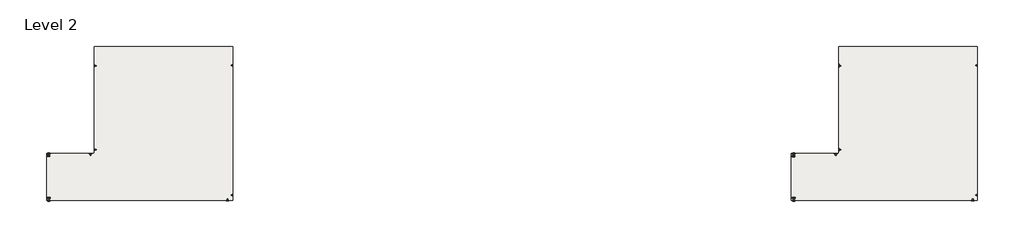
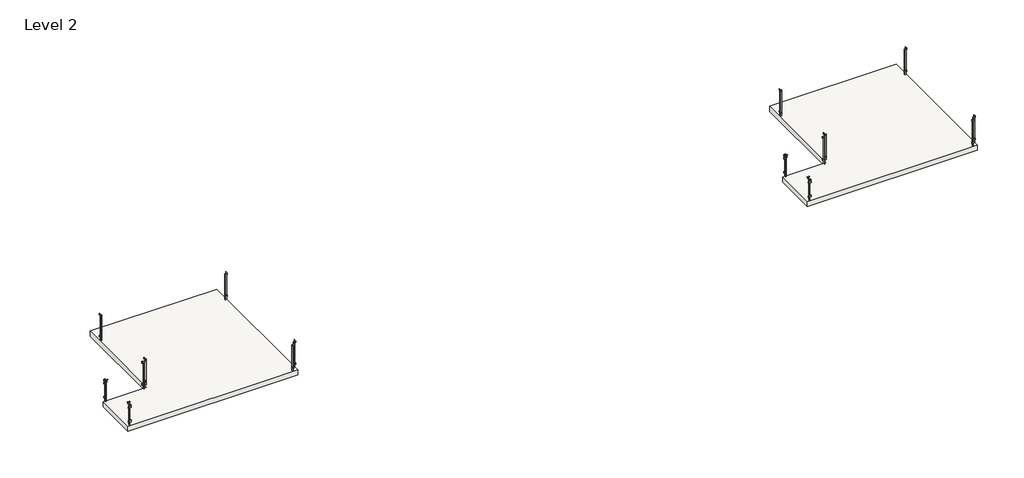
# One storey: 16 proxies, 2 slabs.
"""IFC4 building model written with IfcOpenShell, lengths in millimetres."""

from ifc_helpers import new_model, si_unit, frame, origin, place, context, project, spatial, polyline, outline, extrude, transform, mapped, element, save
from components import building_element_proxy_a79f7dfa, building_element_proxy_dd0e699c, building_element_proxy_a02ecdc2

model = new_model("IFC4")

# Units and contexts
model_context = context("Model", 3, world=origin())
ifc_project = project(units=[si_unit("LENGTHUNIT", "METRE", prefix="MILLI")], contexts=[model_context])

# Site, building, storey
site = spatial("IfcSite", under=ifc_project)
building = spatial("IfcBuilding", under=site)
storey = spatial("IfcBuildingStorey", under=building, Name="Level 2", Elevation=3048.0)

# Proxies
placement = place(None, origin())
building_element_proxy_shape = building_element_proxy_a79f7dfa(model_context)
element("IfcBuildingElementProxy", 1, Name="Baluster-End-Post-VIVA-STRUC-Top Mount : WELDED STEEL CHANNEL_TOP MOUNT STRUC_STRAIGHT", ObjectType="Baluster-End-Post-VIVA-STRUC-Top Mount : WELDED STEEL CHANNEL_TOP MOUNT STRUC_STRAIGHT", at=placement, inside=storey, context=model_context, shape_type="MappedRepresentation", body=[
    mapped(building_element_proxy_shape, transform((-28014.6091099, -31422.1015554, 3047.492), x_axis=(0.0, 1.0, 0.0), y_axis=(-1.0, 0.0, 0.0), z_axis=(0.0, 0.0, 1.0))),
])
element("IfcBuildingElementProxy", 2, Name="Baluster-End-Post-VIVA-STRUC-Top Mount : WELDED STEEL CHANNEL_TOP MOUNT STRUC_STRAIGHT", ObjectType="Baluster-End-Post-VIVA-STRUC-Top Mount : WELDED STEEL CHANNEL_TOP MOUNT STRUC_STRAIGHT", at=placement, inside=storey, context=model_context, shape_type="MappedRepresentation", body=[
    mapped(building_element_proxy_shape, transform((-7288.2091099, -31422.1015554, 3047.492), x_axis=(0.0, 1.0, 0.0), y_axis=(-1.0, 0.0, 0.0), z_axis=(0.0, 0.0, 1.0))),
])
building_element_proxy_2_shape = building_element_proxy_dd0e699c(model_context)
element("IfcBuildingElementProxy", 3, Name="Baluster-End-Post-VIVA-STRUC-Top Mount : WELDED STEEL CHANNEL_TOP MOUNT STRUC_STRAIGHT", ObjectType="Baluster-End-Post-VIVA-STRUC-Top Mount : WELDED STEEL CHANNEL_TOP MOUNT STRUC_STRAIGHT", at=placement, inside=storey, context=model_context, shape_type="MappedRepresentation", body=[
    mapped(building_element_proxy_2_shape, transform((-27946.4063244, -31356.1315768, 3047.492), x_axis=(1.0, 0.0, 0.0), y_axis=(0.0, 1.0, 0.0), z_axis=(0.0, 0.0, 1.0))),
])
element("IfcBuildingElementProxy", 4, Name="Baluster-End-Post-VIVA-STRUC-Top Mount : WELDED STEEL CHANNEL_TOP MOUNT STRUC_STRAIGHT", ObjectType="Baluster-End-Post-VIVA-STRUC-Top Mount : WELDED STEEL CHANNEL_TOP MOUNT STRUC_STRAIGHT", at=placement, inside=storey, context=model_context, shape_type="MappedRepresentation", body=[
    mapped(building_element_proxy_2_shape, transform((-31627.8919393, -30159.4218394, 3047.492), x_axis=(0.0, -1.0, 0.0), y_axis=(1.0, 0.0, 0.0), z_axis=(0.0, 0.0, 1.0))),
])
element("IfcBuildingElementProxy", 5, Name="Baluster-End-Post-VIVA-STRUC-Top Mount : WELDED STEEL CHANNEL_TOP MOUNT STRUC_STRAIGHT", ObjectType="Baluster-End-Post-VIVA-STRUC-Top Mount : WELDED STEEL CHANNEL_TOP MOUNT STRUC_STRAIGHT", at=placement, inside=storey, context=model_context, shape_type="MappedRepresentation", body=[
    mapped(building_element_proxy_2_shape, transform((-7197.7813244, -31356.3310625, 3047.492), x_axis=(1.0, 0.0, 0.0), y_axis=(0.0, 1.0, 0.0), z_axis=(0.0, 0.0, 1.0))),
])
element("IfcBuildingElementProxy", 6, Name="Baluster-End-Post-VIVA-STRUC-Top Mount : WELDED STEEL CHANNEL_TOP MOUNT STRUC_STRAIGHT", ObjectType="Baluster-End-Post-VIVA-STRUC-Top Mount : WELDED STEEL CHANNEL_TOP MOUNT STRUC_STRAIGHT", at=placement, inside=storey, context=model_context, shape_type="MappedRepresentation", body=[
    mapped(building_element_proxy_2_shape, transform((-10901.4919393, -30159.4218394, 3047.492), x_axis=(0.0, -1.0, 0.0), y_axis=(1.0, 0.0, 0.0), z_axis=(0.0, 0.0, 1.0))),
])
element("IfcBuildingElementProxy", 7, Name="Baluster-End-Post-VIVA-STRUC-Top Mount : WELDED STEEL CHANNEL_TOP MOUNT STRUC_STRAIGHT", ObjectType="Baluster-End-Post-VIVA-STRUC-Top Mount : WELDED STEEL CHANNEL_TOP MOUNT STRUC_STRAIGHT", at=placement, inside=storey, context=model_context, shape_type="MappedRepresentation", body=[
    mapped(building_element_proxy_shape, transform((-31627.8919393, -27619.4218394, 3047.492), x_axis=(0.0, -1.0, 0.0), y_axis=(1.0, 0.0, 0.0), z_axis=(0.0, 0.0, 1.0))),
])
element("IfcBuildingElementProxy", 8, Name="Baluster-End-Post-VIVA-STRUC-Top Mount : WELDED STEEL CHANNEL_TOP MOUNT STRUC_STRAIGHT", ObjectType="Baluster-End-Post-VIVA-STRUC-Top Mount : WELDED STEEL CHANNEL_TOP MOUNT STRUC_STRAIGHT", at=placement, inside=storey, context=model_context, shape_type="MappedRepresentation", body=[
    mapped(building_element_proxy_shape, transform((-31756.4063244, -30288.2234464, 3047.492), x_axis=(-1.0, 0.0, 0.0), y_axis=(0.0, -1.0, 0.0), z_axis=(0.0, 0.0, 1.0))),
])
element("IfcBuildingElementProxy", 9, Name="Baluster-End-Post-VIVA-STRUC-Top Mount : WELDED STEEL CHANNEL_TOP MOUNT STRUC_STRAIGHT", ObjectType="Baluster-End-Post-VIVA-STRUC-Top Mount : WELDED STEEL CHANNEL_TOP MOUNT STRUC_STRAIGHT", at=placement, inside=storey, context=model_context, shape_type="MappedRepresentation", body=[
    mapped(building_element_proxy_shape, transform((-10901.4919393, -27619.4218394, 3047.492), x_axis=(0.0, -1.0, 0.0), y_axis=(1.0, 0.0, 0.0), z_axis=(0.0, 0.0, 1.0))),
])
element("IfcBuildingElementProxy", 10, Name="Baluster-End-Post-VIVA-STRUC-Top Mount : WELDED STEEL CHANNEL_TOP MOUNT STRUC_STRAIGHT", ObjectType="Baluster-End-Post-VIVA-STRUC-Top Mount : WELDED STEEL CHANNEL_TOP MOUNT STRUC_STRAIGHT", at=placement, inside=storey, context=model_context, shape_type="MappedRepresentation", body=[
    mapped(building_element_proxy_shape, transform((-11010.9563244, -30291.0239606, 3047.492), x_axis=(-1.0, 0.0, 0.0), y_axis=(0.0, -1.0, 0.0), z_axis=(0.0, 0.0, 1.0))),
])
element("IfcBuildingElementProxy", 11, Name="Baluster-End-Post-VIVA-STRUC-Top Mount : WELDED STEEL CHANNEL_TOP MOUNT STRUC_STRAIGHT", ObjectType="Baluster-End-Post-VIVA-STRUC-Top Mount : WELDED STEEL CHANNEL_TOP MOUNT STRUC_STRAIGHT", at=placement, inside=storey, context=model_context, shape_type="MappedRepresentation", body=[
    mapped(building_element_proxy_2_shape, transform((-28014.6091099, -27612.1015554, 3047.492), x_axis=(0.0, 1.0, 0.0), y_axis=(-1.0, 0.0, 0.0), z_axis=(0.0, 0.0, 1.0))),
])
element("IfcBuildingElementProxy", 12, Name="Baluster-End-Post-VIVA-STRUC-Top Mount : WELDED STEEL CHANNEL_TOP MOUNT STRUC_STRAIGHT", ObjectType="Baluster-End-Post-VIVA-STRUC-Top Mount : WELDED STEEL CHANNEL_TOP MOUNT STRUC_STRAIGHT", at=placement, inside=storey, context=model_context, shape_type="MappedRepresentation", body=[
    mapped(building_element_proxy_2_shape, transform((-7288.2091099, -27612.1015554, 3047.492), x_axis=(0.0, 1.0, 0.0), y_axis=(-1.0, 0.0, 0.0), z_axis=(0.0, 0.0, 1.0))),
])
building_element_proxy_3_shape = building_element_proxy_a02ecdc2(model_context)
element("IfcBuildingElementProxy", 13, Name="Baluster-End-Post-VIVA-STRUC-Top Mount-Stair : WELDED STEEL CHANNEL_TOP MOUNT STRUC_STAIR", ObjectType="Baluster-End-Post-VIVA-STRUC-Top Mount-Stair : WELDED STEEL CHANNEL_TOP MOUNT STRUC_STAIR", at=placement, inside=storey, context=model_context, shape_type="MappedRepresentation", body=[
    mapped(building_element_proxy_3_shape, transform((-33016.8813244, -31353.2927116, 3556.635), x_axis=(1.0, 0.0, 0.0), y_axis=(0.0, 1.0, 0.0), z_axis=(0.0, 0.0, 1.0))),
])
element("IfcBuildingElementProxy", 14, Name="Baluster-End-Post-VIVA-STRUC-Top Mount-Stair : WELDED STEEL CHANNEL_TOP MOUNT STRUC_STAIR", ObjectType="Baluster-End-Post-VIVA-STRUC-Top Mount-Stair : WELDED STEEL CHANNEL_TOP MOUNT STRUC_STAIR", at=placement, inside=storey, context=model_context, shape_type="MappedRepresentation", body=[
    mapped(building_element_proxy_3_shape, transform((-33016.8813244, -30291.0623116, 3556.635), x_axis=(-1.0, 0.0, 0.0), y_axis=(0.0, -1.0, 0.0), z_axis=(0.0, 0.0, 1.0))),
])
element("IfcBuildingElementProxy", 15, Name="Baluster-End-Post-VIVA-STRUC-Top Mount-Stair : WELDED STEEL CHANNEL_TOP MOUNT STRUC_STAIR", ObjectType="Baluster-End-Post-VIVA-STRUC-Top Mount-Stair : WELDED STEEL CHANNEL_TOP MOUNT STRUC_STAIR", at=placement, inside=storey, context=model_context, shape_type="MappedRepresentation", body=[
    mapped(building_element_proxy_3_shape, transform((-12280.6217998, -31353.2927116, 3556.635), x_axis=(1.0, 0.0, 0.0), y_axis=(0.0, 1.0, 0.0), z_axis=(0.0, 0.0, 1.0))),
])
element("IfcBuildingElementProxy", 16, Name="Baluster-End-Post-VIVA-STRUC-Top Mount-Stair : WELDED STEEL CHANNEL_TOP MOUNT STRUC_STAIR", ObjectType="Baluster-End-Post-VIVA-STRUC-Top Mount-Stair : WELDED STEEL CHANNEL_TOP MOUNT STRUC_STAIR", at=placement, inside=storey, context=model_context, shape_type="MappedRepresentation", body=[
    mapped(building_element_proxy_3_shape, transform((-12280.6217998, -30293.8628259, 3556.635), x_axis=(-1.0, 0.0, 0.0), y_axis=(0.0, -1.0, 0.0), z_axis=(0.0, 0.0, 1.0))),
])

# Slabs
element("IfcSlab", 17, ObjectType="Generic - 6.5\"", at=placement, inside=storey, context=model_context, shape_type="SweptSolid", body=[
    extrude(outline(polyline([(-27891.8073393, -31473.9861116), (-33076.8813244, -31473.9861116), (-33076.8813244, -30171.3775116), (-31747.802796, -30171.3775116), (-31747.802796, -27180.3775116), (-27891.8073393, -27180.3775116), (-27891.8073393, -31473.9861116)])), frame((0.0, 0.0, 2880.5378), z_axis=(0.0, 0.0, 1.0), x_axis=(1.0, 0.0, 0.0)), (0.0, 0.0, 1.0), 167.4622),
])
element("IfcSlab", 18, ObjectType="Generic - 6.5\"", at=placement, inside=storey, context=model_context, shape_type="SweptSolid", body=[
    extrude(outline(polyline([(-7165.4073393, -31473.9861116), (-12350.4813244, -31473.9861116), (-12350.4813244, -30171.3775116), (-11021.402796, -30171.3775116), (-11021.402796, -27180.3775116), (-7165.4073393, -27180.3775116), (-7165.4073393, -31473.9861116)])), frame((0.0, 0.0, 2880.5378), z_axis=(0.0, 0.0, 1.0), x_axis=(1.0, 0.0, 0.0)), (0.0, 0.0, 1.0), 167.4622),
])

save(model, "model.ifc")
